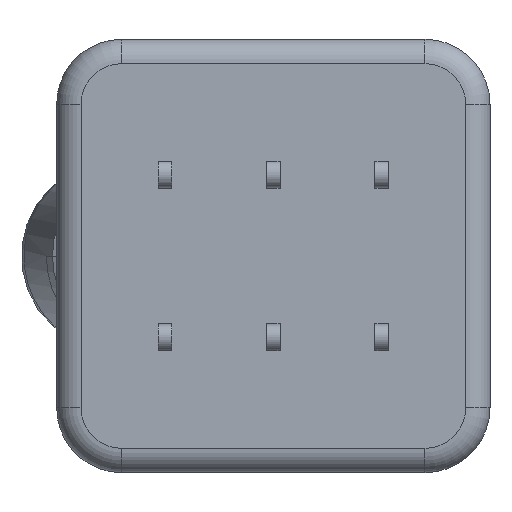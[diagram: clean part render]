
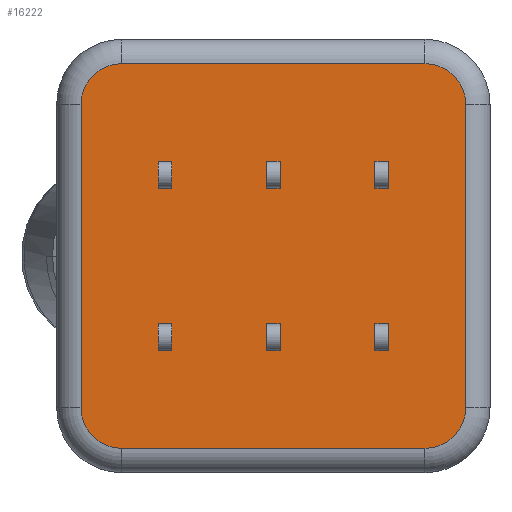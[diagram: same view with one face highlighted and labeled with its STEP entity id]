
A CAD part, front view. The second image highlights one B-rep face of the part: STEP entity #16222.
In plain terms, the highlighted planar face has unit normal (0, -1, 0).
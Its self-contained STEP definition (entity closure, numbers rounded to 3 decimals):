
#12811=CARTESIAN_POINT('',(-5.6,-7.4,5.6));
#12812=DIRECTION('',(0.,-1.,0.));
#12813=DIRECTION('',(0.,0.,1.));
#12814=AXIS2_PLACEMENT_3D('',#12811,#12812,#12813);
#12816=DIRECTION('',(-1.,0.,0.));
#12817=VECTOR('',#12816,11.2);
#12818=CARTESIAN_POINT('',(5.6,-7.4,7.1));
#12819=LINE('',#12818,#12817);
#12820=CARTESIAN_POINT('',(5.6,-7.4,5.6));
#12821=DIRECTION('',(0.,-1.,0.));
#12822=DIRECTION('',(1.,0.,0.));
#12823=AXIS2_PLACEMENT_3D('',#12820,#12821,#12822);
#12825=DIRECTION('',(0.,0.,1.));
#12826=VECTOR('',#12825,11.2);
#12827=CARTESIAN_POINT('',(7.1,-7.4,-5.6));
#12828=LINE('',#12827,#12826);
#12829=CARTESIAN_POINT('',(5.6,-7.4,-5.6));
#12830=DIRECTION('',(0.,-1.,0.));
#12831=DIRECTION('',(0.,0.,-1.));
#12832=AXIS2_PLACEMENT_3D('',#12829,#12830,#12831);
#12834=DIRECTION('',(1.,0.,0.));
#12835=VECTOR('',#12834,11.2);
#12836=CARTESIAN_POINT('',(-5.6,-7.4,-7.1));
#12837=LINE('',#12836,#12835);
#12838=CARTESIAN_POINT('',(-5.6,-7.4,-5.6));
#12839=DIRECTION('',(0.,-1.,0.));
#12840=DIRECTION('',(-1.,0.,0.));
#12841=AXIS2_PLACEMENT_3D('',#12838,#12839,#12840);
#12843=DIRECTION('',(0.,0.,-1.));
#12844=VECTOR('',#12843,11.2);
#12845=CARTESIAN_POINT('',(-7.1,-7.4,5.6));
#12846=LINE('',#12845,#12844);
#15045=DIRECTION('',(0.,0.,1.));
#15046=VECTOR('',#15045,1.);
#15047=CARTESIAN_POINT('',(-0.25,-7.4,-3.5));
#15048=LINE('',#15047,#15046);
#15062=DIRECTION('',(1.,0.,0.));
#15063=VECTOR('',#15062,0.5);
#15064=CARTESIAN_POINT('',(-0.25,-7.4,-2.5));
#15065=LINE('',#15064,#15063);
#15066=DIRECTION('',(0.,0.,1.));
#15067=VECTOR('',#15066,1.);
#15068=CARTESIAN_POINT('',(0.25,-7.4,-3.5));
#15069=LINE('',#15068,#15067);
#15083=DIRECTION('',(1.,0.,0.));
#15084=VECTOR('',#15083,0.5);
#15085=CARTESIAN_POINT('',(-0.25,-7.4,-3.5));
#15086=LINE('',#15085,#15084);
#15095=DIRECTION('',(0.,0.,1.));
#15096=VECTOR('',#15095,1.);
#15097=CARTESIAN_POINT('',(4.25,-7.4,-3.5));
#15098=LINE('',#15097,#15096);
#15112=DIRECTION('',(-1.,0.,0.));
#15113=VECTOR('',#15112,0.5);
#15114=CARTESIAN_POINT('',(4.25,-7.4,-3.5));
#15115=LINE('',#15114,#15113);
#15116=DIRECTION('',(0.,0.,1.));
#15117=VECTOR('',#15116,1.);
#15118=CARTESIAN_POINT('',(3.75,-7.4,-3.5));
#15119=LINE('',#15118,#15117);
#15133=DIRECTION('',(-1.,0.,0.));
#15134=VECTOR('',#15133,0.5);
#15135=CARTESIAN_POINT('',(4.25,-7.4,-2.5));
#15136=LINE('',#15135,#15134);
#15145=DIRECTION('',(0.,0.,-1.));
#15146=VECTOR('',#15145,1.);
#15147=CARTESIAN_POINT('',(-4.25,-7.4,-2.5));
#15148=LINE('',#15147,#15146);
#15162=DIRECTION('',(1.,0.,0.));
#15163=VECTOR('',#15162,0.5);
#15164=CARTESIAN_POINT('',(-4.25,-7.4,-2.5));
#15165=LINE('',#15164,#15163);
#15166=DIRECTION('',(0.,0.,-1.));
#15167=VECTOR('',#15166,1.);
#15168=CARTESIAN_POINT('',(-3.75,-7.4,-2.5));
#15169=LINE('',#15168,#15167);
#15183=DIRECTION('',(1.,0.,0.));
#15184=VECTOR('',#15183,0.5);
#15185=CARTESIAN_POINT('',(-4.25,-7.4,-3.5));
#15186=LINE('',#15185,#15184);
#15195=DIRECTION('',(0.,0.,1.));
#15196=VECTOR('',#15195,1.);
#15197=CARTESIAN_POINT('',(-0.25,-7.4,2.5));
#15198=LINE('',#15197,#15196);
#15212=DIRECTION('',(1.,0.,0.));
#15213=VECTOR('',#15212,0.5);
#15214=CARTESIAN_POINT('',(-0.25,-7.4,3.5));
#15215=LINE('',#15214,#15213);
#15216=DIRECTION('',(0.,0.,1.));
#15217=VECTOR('',#15216,1.);
#15218=CARTESIAN_POINT('',(0.25,-7.4,2.5));
#15219=LINE('',#15218,#15217);
#15233=DIRECTION('',(1.,0.,0.));
#15234=VECTOR('',#15233,0.5);
#15235=CARTESIAN_POINT('',(-0.25,-7.4,2.5));
#15236=LINE('',#15235,#15234);
#15245=DIRECTION('',(0.,0.,1.));
#15246=VECTOR('',#15245,1.);
#15247=CARTESIAN_POINT('',(4.25,-7.4,2.5));
#15248=LINE('',#15247,#15246);
#15262=DIRECTION('',(-1.,0.,0.));
#15263=VECTOR('',#15262,0.5);
#15264=CARTESIAN_POINT('',(4.25,-7.4,2.5));
#15265=LINE('',#15264,#15263);
#15266=DIRECTION('',(0.,0.,1.));
#15267=VECTOR('',#15266,1.);
#15268=CARTESIAN_POINT('',(3.75,-7.4,2.5));
#15269=LINE('',#15268,#15267);
#15283=DIRECTION('',(-1.,0.,0.));
#15284=VECTOR('',#15283,0.5);
#15285=CARTESIAN_POINT('',(4.25,-7.4,3.5));
#15286=LINE('',#15285,#15284);
#15295=DIRECTION('',(0.,0.,-1.));
#15296=VECTOR('',#15295,1.);
#15297=CARTESIAN_POINT('',(-4.25,-7.4,3.5));
#15298=LINE('',#15297,#15296);
#15312=DIRECTION('',(1.,0.,0.));
#15313=VECTOR('',#15312,0.5);
#15314=CARTESIAN_POINT('',(-4.25,-7.4,3.5));
#15315=LINE('',#15314,#15313);
#15316=DIRECTION('',(0.,0.,-1.));
#15317=VECTOR('',#15316,1.);
#15318=CARTESIAN_POINT('',(-3.75,-7.4,3.5));
#15319=LINE('',#15318,#15317);
#15333=DIRECTION('',(1.,0.,0.));
#15334=VECTOR('',#15333,0.5);
#15335=CARTESIAN_POINT('',(-4.25,-7.4,2.5));
#15336=LINE('',#15335,#15334);
#15881=CARTESIAN_POINT('',(-5.6,-7.4,7.1));
#15882=CARTESIAN_POINT('',(-7.1,-7.4,5.6));
#15883=VERTEX_POINT('',#15881);
#15884=VERTEX_POINT('',#15882);
#15889=CARTESIAN_POINT('',(-7.1,-7.4,-5.6));
#15890=VERTEX_POINT('',#15889);
#15893=CARTESIAN_POINT('',(-5.6,-7.4,-7.1));
#15894=VERTEX_POINT('',#15893);
#15897=CARTESIAN_POINT('',(5.6,-7.4,-7.1));
#15898=VERTEX_POINT('',#15897);
#15901=CARTESIAN_POINT('',(7.1,-7.4,-5.6));
#15902=VERTEX_POINT('',#15901);
#15905=CARTESIAN_POINT('',(7.1,-7.4,5.6));
#15906=VERTEX_POINT('',#15905);
#15909=CARTESIAN_POINT('',(5.6,-7.4,7.1));
#15910=VERTEX_POINT('',#15909);
#16001=CARTESIAN_POINT('',(-4.25,-7.4,3.5));
#16002=CARTESIAN_POINT('',(-4.25,-7.4,2.5));
#16003=VERTEX_POINT('',#16001);
#16004=VERTEX_POINT('',#16002);
#16009=CARTESIAN_POINT('',(-3.75,-7.4,3.5));
#16010=CARTESIAN_POINT('',(-3.75,-7.4,2.5));
#16011=VERTEX_POINT('',#16009);
#16012=VERTEX_POINT('',#16010);
#16017=CARTESIAN_POINT('',(4.25,-7.4,2.5));
#16018=CARTESIAN_POINT('',(4.25,-7.4,3.5));
#16019=VERTEX_POINT('',#16017);
#16020=VERTEX_POINT('',#16018);
#16025=CARTESIAN_POINT('',(3.75,-7.4,2.5));
#16026=CARTESIAN_POINT('',(3.75,-7.4,3.5));
#16027=VERTEX_POINT('',#16025);
#16028=VERTEX_POINT('',#16026);
#16033=CARTESIAN_POINT('',(-0.25,-7.4,2.5));
#16034=CARTESIAN_POINT('',(-0.25,-7.4,3.5));
#16035=VERTEX_POINT('',#16033);
#16036=VERTEX_POINT('',#16034);
#16041=CARTESIAN_POINT('',(0.25,-7.4,2.5));
#16042=CARTESIAN_POINT('',(0.25,-7.4,3.5));
#16043=VERTEX_POINT('',#16041);
#16044=VERTEX_POINT('',#16042);
#16053=CARTESIAN_POINT('',(-4.25,-7.4,-2.5));
#16054=CARTESIAN_POINT('',(-4.25,-7.4,-3.5));
#16055=VERTEX_POINT('',#16053);
#16056=VERTEX_POINT('',#16054);
#16061=CARTESIAN_POINT('',(-3.75,-7.4,-2.5));
#16062=CARTESIAN_POINT('',(-3.75,-7.4,-3.5));
#16063=VERTEX_POINT('',#16061);
#16064=VERTEX_POINT('',#16062);
#16069=CARTESIAN_POINT('',(4.25,-7.4,-3.5));
#16070=CARTESIAN_POINT('',(4.25,-7.4,-2.5));
#16071=VERTEX_POINT('',#16069);
#16072=VERTEX_POINT('',#16070);
#16077=CARTESIAN_POINT('',(3.75,-7.4,-3.5));
#16078=CARTESIAN_POINT('',(3.75,-7.4,-2.5));
#16079=VERTEX_POINT('',#16077);
#16080=VERTEX_POINT('',#16078);
#16085=CARTESIAN_POINT('',(-0.25,-7.4,-3.5));
#16086=CARTESIAN_POINT('',(-0.25,-7.4,-2.5));
#16087=VERTEX_POINT('',#16085);
#16088=VERTEX_POINT('',#16086);
#16093=CARTESIAN_POINT('',(0.25,-7.4,-3.5));
#16094=CARTESIAN_POINT('',(0.25,-7.4,-2.5));
#16095=VERTEX_POINT('',#16093);
#16096=VERTEX_POINT('',#16094);
#16140=CARTESIAN_POINT('',(0.,-7.4,0.));
#16141=DIRECTION('',(0.,-1.,0.));
#16142=DIRECTION('',(1.,0.,0.));
#16143=AXIS2_PLACEMENT_3D('',#16140,#16141,#16142);
#16144=PLANE('',#16143);
#16145=ORIENTED_EDGE('',*,*,#16130,.F.);
#16147=ORIENTED_EDGE('',*,*,#16146,.F.);
#16149=ORIENTED_EDGE('',*,*,#16148,.F.);
#16151=ORIENTED_EDGE('',*,*,#16150,.F.);
#16153=ORIENTED_EDGE('',*,*,#16152,.F.);
#16155=ORIENTED_EDGE('',*,*,#16154,.F.);
#16157=ORIENTED_EDGE('',*,*,#16156,.F.);
#16159=ORIENTED_EDGE('',*,*,#16158,.F.);
#16160=EDGE_LOOP('',(#16145,#16147,#16149,#16151,#16153,#16155,#16157,#16159));
#16161=FACE_OUTER_BOUND('',#16160,.F.);
#16163=ORIENTED_EDGE('',*,*,#16162,.F.);
#16165=ORIENTED_EDGE('',*,*,#16164,.T.);
#16167=ORIENTED_EDGE('',*,*,#16166,.T.);
#16169=ORIENTED_EDGE('',*,*,#16168,.F.);
#16170=EDGE_LOOP('',(#16163,#16165,#16167,#16169));
#16171=FACE_BOUND('',#16170,.F.);
#16173=ORIENTED_EDGE('',*,*,#16172,.T.);
#16175=ORIENTED_EDGE('',*,*,#16174,.T.);
#16177=ORIENTED_EDGE('',*,*,#16176,.F.);
#16179=ORIENTED_EDGE('',*,*,#16178,.F.);
#16180=EDGE_LOOP('',(#16173,#16175,#16177,#16179));
#16181=FACE_BOUND('',#16180,.F.);
#16183=ORIENTED_EDGE('',*,*,#16182,.T.);
#16185=ORIENTED_EDGE('',*,*,#16184,.T.);
#16187=ORIENTED_EDGE('',*,*,#16186,.F.);
#16189=ORIENTED_EDGE('',*,*,#16188,.F.);
#16190=EDGE_LOOP('',(#16183,#16185,#16187,#16189));
#16191=FACE_BOUND('',#16190,.F.);
#16193=ORIENTED_EDGE('',*,*,#16192,.F.);
#16195=ORIENTED_EDGE('',*,*,#16194,.T.);
#16197=ORIENTED_EDGE('',*,*,#16196,.T.);
#16199=ORIENTED_EDGE('',*,*,#16198,.F.);
#16200=EDGE_LOOP('',(#16193,#16195,#16197,#16199));
#16201=FACE_BOUND('',#16200,.F.);
#16203=ORIENTED_EDGE('',*,*,#16202,.T.);
#16205=ORIENTED_EDGE('',*,*,#16204,.T.);
#16207=ORIENTED_EDGE('',*,*,#16206,.F.);
#16209=ORIENTED_EDGE('',*,*,#16208,.F.);
#16210=EDGE_LOOP('',(#16203,#16205,#16207,#16209));
#16211=FACE_BOUND('',#16210,.F.);
#16213=ORIENTED_EDGE('',*,*,#16212,.T.);
#16215=ORIENTED_EDGE('',*,*,#16214,.T.);
#16217=ORIENTED_EDGE('',*,*,#16216,.F.);
#16219=ORIENTED_EDGE('',*,*,#16218,.F.);
#16220=EDGE_LOOP('',(#16213,#16215,#16217,#16219));
#16221=FACE_BOUND('',#16220,.F.);
#16222=ADVANCED_FACE('',(#16161,#16171,#16181,#16191,#16201,#16211,#16221),
#16144,.T.);
#12815=CIRCLE('',#12814,1.5);
#12824=CIRCLE('',#12823,1.5);
#12833=CIRCLE('',#12832,1.5);
#12842=CIRCLE('',#12841,1.5);
#16130=EDGE_CURVE('',#15883,#15884,#12815,.T.);
#16146=EDGE_CURVE('',#15910,#15883,#12819,.T.);
#16148=EDGE_CURVE('',#15906,#15910,#12824,.T.);
#16150=EDGE_CURVE('',#15902,#15906,#12828,.T.);
#16152=EDGE_CURVE('',#15898,#15902,#12833,.T.);
#16154=EDGE_CURVE('',#15894,#15898,#12837,.T.);
#16156=EDGE_CURVE('',#15890,#15894,#12842,.T.);
#16158=EDGE_CURVE('',#15884,#15890,#12846,.T.);
#16162=EDGE_CURVE('',#16087,#16088,#15048,.T.);
#16164=EDGE_CURVE('',#16087,#16095,#15086,.T.);
#16166=EDGE_CURVE('',#16095,#16096,#15069,.T.);
#16168=EDGE_CURVE('',#16088,#16096,#15065,.T.);
#16172=EDGE_CURVE('',#16071,#16072,#15098,.T.);
#16174=EDGE_CURVE('',#16072,#16080,#15136,.T.);
#16176=EDGE_CURVE('',#16079,#16080,#15119,.T.);
#16178=EDGE_CURVE('',#16071,#16079,#15115,.T.);
#16182=EDGE_CURVE('',#16055,#16056,#15148,.T.);
#16184=EDGE_CURVE('',#16056,#16064,#15186,.T.);
#16186=EDGE_CURVE('',#16063,#16064,#15169,.T.);
#16188=EDGE_CURVE('',#16055,#16063,#15165,.T.);
#16192=EDGE_CURVE('',#16035,#16036,#15198,.T.);
#16194=EDGE_CURVE('',#16035,#16043,#15236,.T.);
#16196=EDGE_CURVE('',#16043,#16044,#15219,.T.);
#16198=EDGE_CURVE('',#16036,#16044,#15215,.T.);
#16202=EDGE_CURVE('',#16019,#16020,#15248,.T.);
#16204=EDGE_CURVE('',#16020,#16028,#15286,.T.);
#16206=EDGE_CURVE('',#16027,#16028,#15269,.T.);
#16208=EDGE_CURVE('',#16019,#16027,#15265,.T.);
#16212=EDGE_CURVE('',#16003,#16004,#15298,.T.);
#16214=EDGE_CURVE('',#16004,#16012,#15336,.T.);
#16216=EDGE_CURVE('',#16011,#16012,#15319,.T.);
#16218=EDGE_CURVE('',#16003,#16011,#15315,.T.);
